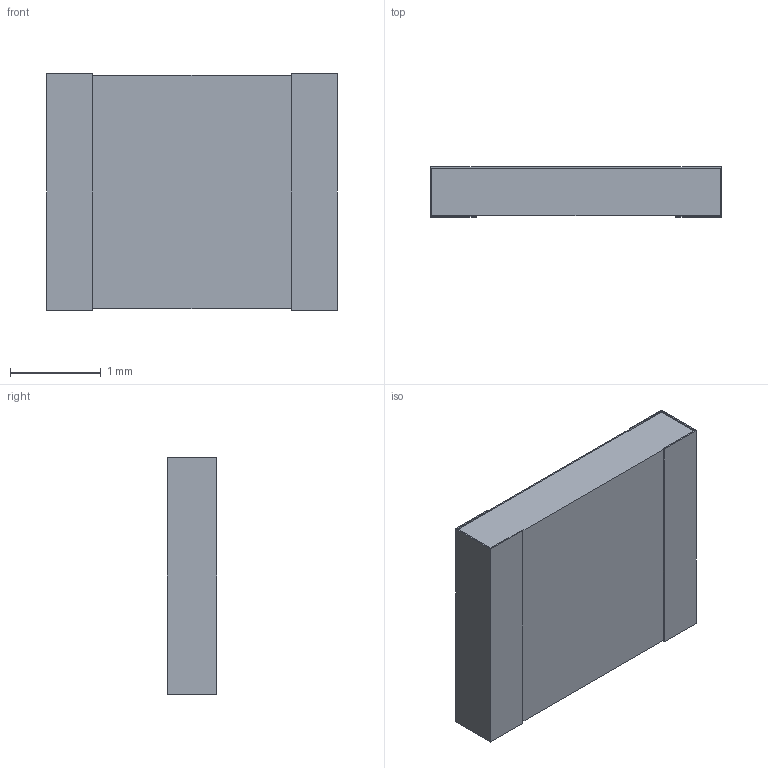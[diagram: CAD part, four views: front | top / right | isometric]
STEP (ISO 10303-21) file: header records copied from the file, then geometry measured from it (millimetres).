
FILE_DESCRIPTION(/* description */ (''),/* implementation_level */ '2;1');
FILE_NAME(/* name */ 'C:\Users\mulla\Documents\SEI Models\Inventor Files\HMC\HMC1210_stp.stp',/* time_stamp */ '2019-06-20T15:50:32-04:00',/* author */ ('mulla'),/* organization */ (''),/* preprocessor_version */ 'ST-DEVELOPER v16.1',/* originating_system */ 'Autodesk Inventor 2016',/* authorisation */ '');
FILE_SCHEMA (('AUTOMOTIVE_DESIGN { 1 0 10303 214 3 1 1 }'));
Length unit declared in the file: millimetre
Products named in the file (1): HMC1210
Bounding box: 3.2 x 0.55 x 2.6 mm (x, y, z)
Volume: 4.4 mm3; surface area: 49.8 mm2
Topology: 4 solids, 4 shells, 32 faces, 72 edges, 48 vertices
Faces by surface type: plane 32
Entity records: 950 total; most frequent: CARTESIAN_POINT 153, ORIENTED_EDGE 144, DIRECTION 138, LINE 72, VECTOR 72, EDGE_CURVE 72, VERTEX_POINT 48, STYLED_ITEM 36
